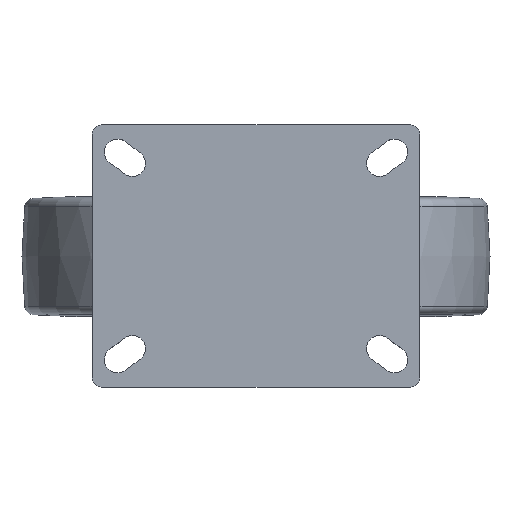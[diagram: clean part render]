
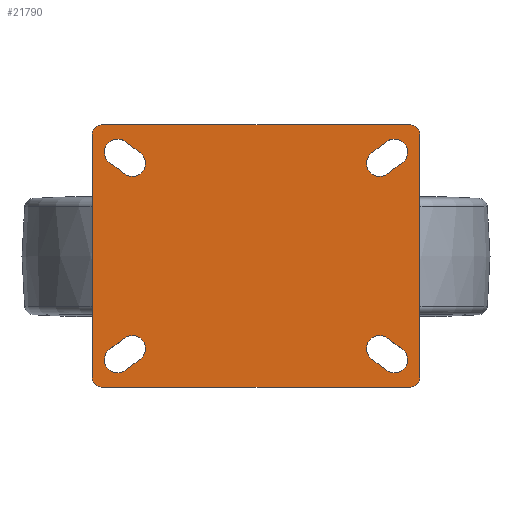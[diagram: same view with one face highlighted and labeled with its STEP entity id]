
A CAD part, top view. The second image highlights one B-rep face of the part: STEP entity #21790.
In plain terms, the highlighted planar face has unit normal (0, 0, 1).
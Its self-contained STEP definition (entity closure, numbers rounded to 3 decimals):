
#1850=FACE_BOUND('',#6771,.T.);
#1851=FACE_BOUND('',#6772,.T.);
#1852=FACE_BOUND('',#6773,.T.);
#1853=FACE_BOUND('',#6774,.T.);
#2727=LINE('',#34414,#4087);
#2730=LINE('',#34422,#4090);
#2733=LINE('',#34430,#4093);
#2736=LINE('',#34438,#4096);
#2739=LINE('',#34446,#4099);
#2742=LINE('',#34454,#4102);
#2745=LINE('',#34462,#4105);
#2748=LINE('',#34470,#4108);
#2752=LINE('',#34482,#4112);
#2755=LINE('',#34490,#4115);
#2758=LINE('',#34498,#4118);
#2761=LINE('',#34505,#4121);
#4087=VECTOR('',#26125,10.);
#4090=VECTOR('',#26134,10.);
#4093=VECTOR('',#26143,10.);
#4096=VECTOR('',#26152,10.);
#4099=VECTOR('',#26161,10.);
#4102=VECTOR('',#26170,10.);
#4105=VECTOR('',#26179,10.);
#4108=VECTOR('',#26188,10.);
#4112=VECTOR('',#26202,10.);
#4115=VECTOR('',#26211,10.);
#4118=VECTOR('',#26220,10.);
#4121=VECTOR('',#26229,10.);
#5383=FACE_OUTER_BOUND('',#6770,.T.);
#6770=EDGE_LOOP('',(#17029,#17030,#17031,#17032,#17033,#17034,#17035,#17036));
#6771=EDGE_LOOP('',(#17037,#17038,#17039,#17040));
#6772=EDGE_LOOP('',(#17041,#17042,#17043,#17044));
#6773=EDGE_LOOP('',(#17045,#17046,#17047,#17048));
#6774=EDGE_LOOP('',(#17049,#17050,#17051,#17052));
#7710=CIRCLE('',#23045,7.);
#7711=CIRCLE('',#23048,7.);
#7712=CIRCLE('',#23051,7.);
#7713=CIRCLE('',#23054,7.);
#7714=CIRCLE('',#23057,7.);
#7715=CIRCLE('',#23060,7.);
#7716=CIRCLE('',#23063,7.);
#7717=CIRCLE('',#23066,7.);
#7718=CIRCLE('',#23068,5.);
#7719=CIRCLE('',#23071,5.);
#7720=CIRCLE('',#23074,5.);
#7721=CIRCLE('',#23077,5.);
#9508=VERTEX_POINT('',#34411);
#9509=VERTEX_POINT('',#34413);
#9510=VERTEX_POINT('',#34417);
#9511=VERTEX_POINT('',#34421);
#9512=VERTEX_POINT('',#34427);
#9513=VERTEX_POINT('',#34429);
#9514=VERTEX_POINT('',#34433);
#9515=VERTEX_POINT('',#34437);
#9516=VERTEX_POINT('',#34443);
#9517=VERTEX_POINT('',#34445);
#9518=VERTEX_POINT('',#34449);
#9519=VERTEX_POINT('',#34453);
#9520=VERTEX_POINT('',#34459);
#9521=VERTEX_POINT('',#34461);
#9522=VERTEX_POINT('',#34465);
#9523=VERTEX_POINT('',#34469);
#9524=VERTEX_POINT('',#34475);
#9525=VERTEX_POINT('',#34477);
#9526=VERTEX_POINT('',#34481);
#9527=VERTEX_POINT('',#34485);
#9528=VERTEX_POINT('',#34489);
#9529=VERTEX_POINT('',#34493);
#9530=VERTEX_POINT('',#34497);
#9531=VERTEX_POINT('',#34501);
#12108=EDGE_CURVE('',#9509,#9508,#2727,.T.);
#12110=EDGE_CURVE('',#9510,#9509,#7710,.T.);
#12112=EDGE_CURVE('',#9511,#9510,#2730,.T.);
#12114=EDGE_CURVE('',#9508,#9511,#7711,.T.);
#12116=EDGE_CURVE('',#9513,#9512,#2733,.T.);
#12118=EDGE_CURVE('',#9514,#9513,#7712,.T.);
#12120=EDGE_CURVE('',#9515,#9514,#2736,.T.);
#12122=EDGE_CURVE('',#9512,#9515,#7713,.T.);
#12124=EDGE_CURVE('',#9517,#9516,#2739,.T.);
#12126=EDGE_CURVE('',#9518,#9517,#7714,.T.);
#12128=EDGE_CURVE('',#9519,#9518,#2742,.T.);
#12130=EDGE_CURVE('',#9516,#9519,#7715,.T.);
#12132=EDGE_CURVE('',#9521,#9520,#2745,.T.);
#12134=EDGE_CURVE('',#9522,#9521,#7716,.T.);
#12136=EDGE_CURVE('',#9523,#9522,#2748,.T.);
#12138=EDGE_CURVE('',#9520,#9523,#7717,.T.);
#12140=EDGE_CURVE('',#9525,#9524,#7718,.T.);
#12142=EDGE_CURVE('',#9526,#9525,#2752,.T.);
#12144=EDGE_CURVE('',#9527,#9526,#7719,.T.);
#12146=EDGE_CURVE('',#9528,#9527,#2755,.T.);
#12148=EDGE_CURVE('',#9529,#9528,#7720,.T.);
#12150=EDGE_CURVE('',#9530,#9529,#2758,.T.);
#12152=EDGE_CURVE('',#9531,#9530,#7721,.T.);
#12154=EDGE_CURVE('',#9524,#9531,#2761,.T.);
#17029=ORIENTED_EDGE('',*,*,#12154,.T.);
#17030=ORIENTED_EDGE('',*,*,#12152,.T.);
#17031=ORIENTED_EDGE('',*,*,#12150,.T.);
#17032=ORIENTED_EDGE('',*,*,#12148,.T.);
#17033=ORIENTED_EDGE('',*,*,#12146,.T.);
#17034=ORIENTED_EDGE('',*,*,#12144,.T.);
#17035=ORIENTED_EDGE('',*,*,#12142,.T.);
#17036=ORIENTED_EDGE('',*,*,#12140,.T.);
#17037=ORIENTED_EDGE('',*,*,#12138,.T.);
#17038=ORIENTED_EDGE('',*,*,#12136,.T.);
#17039=ORIENTED_EDGE('',*,*,#12134,.T.);
#17040=ORIENTED_EDGE('',*,*,#12132,.T.);
#17041=ORIENTED_EDGE('',*,*,#12130,.T.);
#17042=ORIENTED_EDGE('',*,*,#12128,.T.);
#17043=ORIENTED_EDGE('',*,*,#12126,.T.);
#17044=ORIENTED_EDGE('',*,*,#12124,.T.);
#17045=ORIENTED_EDGE('',*,*,#12122,.T.);
#17046=ORIENTED_EDGE('',*,*,#12120,.T.);
#17047=ORIENTED_EDGE('',*,*,#12118,.T.);
#17048=ORIENTED_EDGE('',*,*,#12116,.T.);
#17049=ORIENTED_EDGE('',*,*,#12114,.T.);
#17050=ORIENTED_EDGE('',*,*,#12112,.T.);
#17051=ORIENTED_EDGE('',*,*,#12110,.T.);
#17052=ORIENTED_EDGE('',*,*,#12108,.T.);
#21092=PLANE('',#23079);
#21790=ADVANCED_FACE('',(#5383,#1850,#1851,#1852,#1853),#21092,.T.);
#23045=AXIS2_PLACEMENT_3D('',#34418,#26129,#26130);
#23048=AXIS2_PLACEMENT_3D('',#34425,#26138,#26139);
#23051=AXIS2_PLACEMENT_3D('',#34434,#26147,#26148);
#23054=AXIS2_PLACEMENT_3D('',#34441,#26156,#26157);
#23057=AXIS2_PLACEMENT_3D('',#34450,#26165,#26166);
#23060=AXIS2_PLACEMENT_3D('',#34457,#26174,#26175);
#23063=AXIS2_PLACEMENT_3D('',#34466,#26183,#26184);
#23066=AXIS2_PLACEMENT_3D('',#34473,#26192,#26193);
#23068=AXIS2_PLACEMENT_3D('',#34478,#26197,#26198);
#23071=AXIS2_PLACEMENT_3D('',#34486,#26206,#26207);
#23074=AXIS2_PLACEMENT_3D('',#34494,#26215,#26216);
#23077=AXIS2_PLACEMENT_3D('',#34502,#26224,#26225);
#23079=AXIS2_PLACEMENT_3D('',#34506,#26230,#26231);
#26125=DIRECTION('',(0.8,-0.6,0.));
#26129=DIRECTION('center_axis',(0.,0.,-1.));
#26130=DIRECTION('ref_axis',(-0.6,-0.8,0.));
#26134=DIRECTION('',(-0.8,0.6,0.));
#26138=DIRECTION('center_axis',(0.,0.,-1.));
#26139=DIRECTION('ref_axis',(0.6,0.8,0.));
#26143=DIRECTION('',(-0.8,-0.6,0.));
#26147=DIRECTION('center_axis',(0.,0.,-1.));
#26148=DIRECTION('ref_axis',(-0.6,0.8,0.));
#26152=DIRECTION('',(0.8,0.6,0.));
#26156=DIRECTION('center_axis',(0.,0.,-1.));
#26157=DIRECTION('ref_axis',(0.6,-0.8,0.));
#26161=DIRECTION('',(-0.8,0.6,0.));
#26165=DIRECTION('center_axis',(0.,0.,-1.));
#26166=DIRECTION('ref_axis',(0.6,0.8,0.));
#26170=DIRECTION('',(0.8,-0.6,0.));
#26174=DIRECTION('center_axis',(0.,0.,-1.));
#26175=DIRECTION('ref_axis',(-0.6,-0.8,0.));
#26179=DIRECTION('',(-0.8,-0.6,0.));
#26183=DIRECTION('center_axis',(0.,0.,-1.));
#26184=DIRECTION('ref_axis',(-0.6,0.8,0.));
#26188=DIRECTION('',(0.8,0.6,0.));
#26192=DIRECTION('center_axis',(0.,0.,-1.));
#26193=DIRECTION('ref_axis',(0.6,-0.8,0.));
#26197=DIRECTION('center_axis',(0.,0.,1.));
#26198=DIRECTION('ref_axis',(-1.,0.,0.));
#26202=DIRECTION('',(0.,-1.,0.));
#26206=DIRECTION('center_axis',(0.,0.,1.));
#26207=DIRECTION('ref_axis',(0.,1.,0.));
#26211=DIRECTION('',(-1.,0.,0.));
#26215=DIRECTION('center_axis',(0.,0.,1.));
#26216=DIRECTION('ref_axis',(1.,0.,0.));
#26220=DIRECTION('',(0.,1.,0.));
#26224=DIRECTION('center_axis',(0.,0.,1.));
#26225=DIRECTION('ref_axis',(0.,-1.,0.));
#26229=DIRECTION('',(1.,0.,0.));
#26230=DIRECTION('center_axis',(0.,0.,1.));
#26231=DIRECTION('ref_axis',(1.,0.,0.));
#34411=CARTESIAN_POINT('',(78.2,-49.9,10.));
#34413=CARTESIAN_POINT('',(70.2,-43.9,10.));
#34414=CARTESIAN_POINT('',(70.2,-43.9,10.));
#34417=CARTESIAN_POINT('',(61.8,-55.1,10.));
#34418=CARTESIAN_POINT('Origin',(66.,-49.5,10.));
#34421=CARTESIAN_POINT('',(69.8,-61.1,10.));
#34422=CARTESIAN_POINT('',(69.8,-61.1,10.));
#34425=CARTESIAN_POINT('Origin',(74.,-55.5,10.));
#34427=CARTESIAN_POINT('',(70.2,43.9,10.));
#34429=CARTESIAN_POINT('',(78.2,49.9,10.));
#34430=CARTESIAN_POINT('',(78.2,49.9,10.));
#34433=CARTESIAN_POINT('',(69.8,61.1,10.));
#34434=CARTESIAN_POINT('Origin',(74.,55.5,10.));
#34437=CARTESIAN_POINT('',(61.8,55.1,10.));
#34438=CARTESIAN_POINT('',(61.8,55.1,10.));
#34441=CARTESIAN_POINT('Origin',(66.,49.5,10.));
#34443=CARTESIAN_POINT('',(-78.2,49.9,10.));
#34445=CARTESIAN_POINT('',(-70.2,43.9,10.));
#34446=CARTESIAN_POINT('',(-70.2,43.9,10.));
#34449=CARTESIAN_POINT('',(-61.8,55.1,10.));
#34450=CARTESIAN_POINT('Origin',(-66.,49.5,10.));
#34453=CARTESIAN_POINT('',(-69.8,61.1,10.));
#34454=CARTESIAN_POINT('',(-69.8,61.1,10.));
#34457=CARTESIAN_POINT('Origin',(-74.,55.5,10.));
#34459=CARTESIAN_POINT('',(-69.8,-61.1,10.));
#34461=CARTESIAN_POINT('',(-61.8,-55.1,10.));
#34462=CARTESIAN_POINT('',(-61.8,-55.1,10.));
#34465=CARTESIAN_POINT('',(-70.2,-43.9,10.));
#34466=CARTESIAN_POINT('Origin',(-66.,-49.5,10.));
#34469=CARTESIAN_POINT('',(-78.2,-49.9,10.));
#34470=CARTESIAN_POINT('',(-78.2,-49.9,10.));
#34473=CARTESIAN_POINT('Origin',(-74.,-55.5,10.));
#34475=CARTESIAN_POINT('',(-82.5,-70.,10.));
#34477=CARTESIAN_POINT('',(-87.5,-65.,10.));
#34478=CARTESIAN_POINT('Origin',(-82.5,-65.,10.));
#34481=CARTESIAN_POINT('',(-87.5,65.,10.));
#34482=CARTESIAN_POINT('',(-87.5,65.,10.));
#34485=CARTESIAN_POINT('',(-82.5,70.,10.));
#34486=CARTESIAN_POINT('Origin',(-82.5,65.,10.));
#34489=CARTESIAN_POINT('',(82.5,70.,10.));
#34490=CARTESIAN_POINT('',(82.5,70.,10.));
#34493=CARTESIAN_POINT('',(87.5,65.,10.));
#34494=CARTESIAN_POINT('Origin',(82.5,65.,10.));
#34497=CARTESIAN_POINT('',(87.5,-65.,10.));
#34498=CARTESIAN_POINT('',(87.5,-65.,10.));
#34501=CARTESIAN_POINT('',(82.5,-70.,10.));
#34502=CARTESIAN_POINT('Origin',(82.5,-65.,10.));
#34505=CARTESIAN_POINT('',(-82.5,-70.,10.));
#34506=CARTESIAN_POINT('Origin',(0.,0.,
10.));
